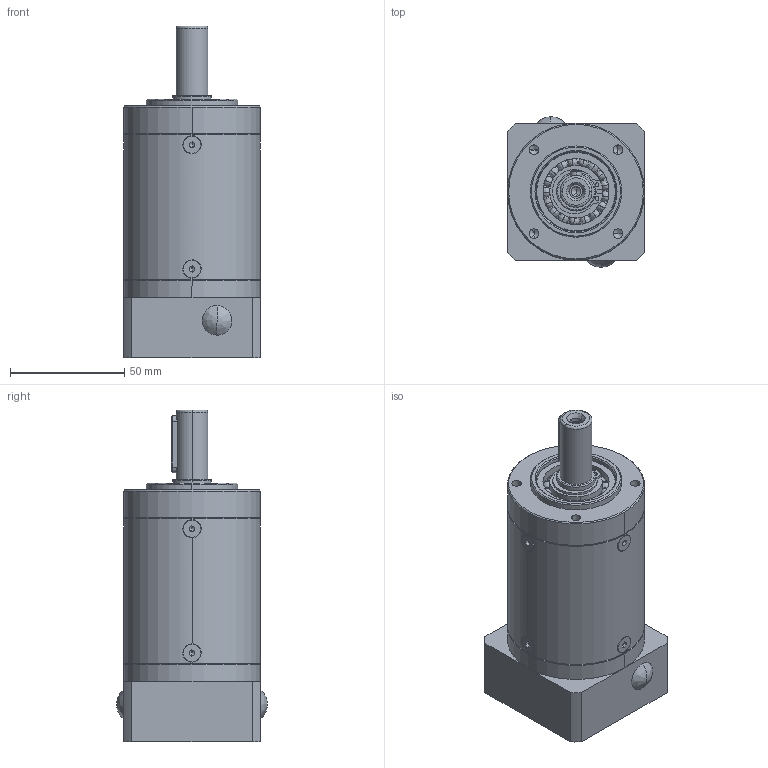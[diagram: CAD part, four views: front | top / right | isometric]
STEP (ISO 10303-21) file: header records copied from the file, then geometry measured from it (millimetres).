
FILE_DESCRIPTION (( 'STEP AP214' ), '1' );
FILE_NAME ('PL60L3-50-14-M5.STEP', '2020-09-11T05:14:23', ( '微软用户' ), ( '微软中国' ), 'SwSTEP 2.0', 'SolidWorks 2014', '' );
FILE_SCHEMA (( 'AUTOMOTIVE_DESIGN' ));
Length unit declared in the file: millimetre
Products named in the file (112): Deep groove ball bearings GB_Rolling bearings 6003 GB 276-94; Hexagon socket countersunk head screws GB_GB_FASTENER_SCREWS_HSCHS M4X10-N; 三级内齿圈; 俴陎粣5X13.5; 笢潔怮栠謫5A; 俴陎粣7X13.5; Deep groove ball bearings GB_Rolling bearings 61904 GB 276-94; 俴陎謫菜え7.2X13.5; 幗渀粣創7X10; Circlips for hole--Type B GB_GB_CONNECTING_PIECE_RINGS_CHB 35; 幗渀粣創5X8; 俴陎謫5A; O形密封圈2X35; Circlips for holes--Type A GB_GB_CONNECTING_PIECE_RING_RRH 37; 路燭菜え18X49.5; PL60L3-50-14-M5; 俴陎謫3A; 笢潔怮栠謫3A; 输入端盖; 俴陎殤5A; Hexagon socket head cap screws GB_GB_FASTENER_SCREWS_HSHCS M5X16-N; 黑裔9; 俴陎謫菜え5X10; 怀堤傷裔PL; 俴陎謫8A; Plain parallel keys_GB_CONNECTING_PIECE_KEYS_CSK 5X25; 路燭菜え28X49.5; Circlips for shaft--Type B GB_GB_CONNECTING_PIECE_RINGS_CSB 20; 俴陎謫菜え7.2X17; 珨撰怮栠謫8A; Circlips for shaft--Type A large GB_GB_CONNECTING_PIECE_RING_RRA 17; 薊粣ん14; 怀堤粣3A; 俴陎殤8A
Assembly tree (78 placements, depth 2):
  Deep groove ball bearings GB_Rolling bearings 6003 GB 276-94
  Hexagon socket countersunk head screws GB_GB_FASTENER_SCREWS_HSCHS M4X10-N
  俴陎粣5X13.5
  俴陎粣7X13.5
  Deep groove ball bearings GB_Rolling bearings 6003 GB 276-94
Bounding box: 60 x 66 x 145.5 mm (x, y, z)
Volume: 268467.6 mm3; surface area: 143604.7 mm2
Topology: 78 solids, 78 shells, 1432 faces, 4051 edges, 2466 vertices
Faces by surface type: cylinder 534, plane 376, bspline 342, cone 180
Entity records: 39050 total; most frequent: CARTESIAN_POINT 15142, ORIENTED_EDGE 4796, DIRECTION 4233, EDGE_CURVE 2398, AXIS2_PLACEMENT_3D 1801, VERTEX_POINT 1566, CIRCLE 1078, EDGE_LOOP 1022
